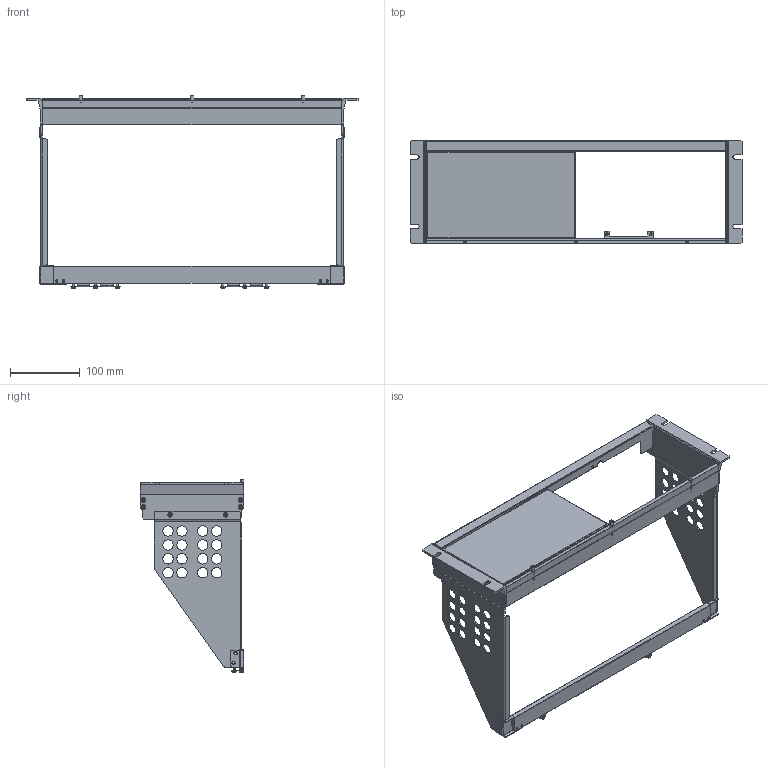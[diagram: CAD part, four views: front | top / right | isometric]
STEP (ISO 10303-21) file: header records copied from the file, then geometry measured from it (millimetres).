
FILE_DESCRIPTION((''),'2;1');
FILE_NAME('GRA-437J_ASM_ASM','2020-10-20T10:34:04',('user'),(''),'CREO PARAMETRIC BY PTC INC, 2019010','CREO PARAMETRIC BY PTC INC, 2019010','');
FILE_SCHEMA(('CONFIG_CONTROL_DESIGN'));
Length unit declared in the file: millimetre
Products named in the file (33): EIA-RACK_ASM_SKEL0002_10_1_1; 62RA-410HP101_3_1_1; 62RA-410HP201_4_1_1; 62RA-410HP3A1_8_1_1; GRA-437_RIGHT-BRACKET_21_1_1; 62RA-410HP5B1-HP_13_1_1; IMS-3X6_1_1_1; 62RA-437HP101_ASM_21_1_ASM_1_ASM; GRA-437_LEFT-BRACKET_14_1_1; 62RA-410HP4A1-HP_13_1_1; IMS-3X6_1_1; 62RA-437HP201_ASM_13_1_ASM_1_ASM; 59CA-04017NS1_1_1_1; 62RA-414HP201_11_1_1; 62RA-414HP201_ASM_3_1_ASM_1_ASM; PMS-W-3X6_1_1_1; FMS-3X8_2_1_1; FMS-3X5_2_1_1; 62RA-410HPBA1_2_1; 62RA-414HP301_8_1; 5320-00403001-SR-3S-1_2_1_1; 5320-00403001-SR-3S-1_2_2_1; 5320-00403001-SR-3S-1_2_ASM_1_ASM; 5320-00403001-SR-3S-2_2_1; 5320-00403001-SR-3S_ASM_2_ASM_1_ASM; GRA-437J_ASM_7_ASM_1_ASM; 62RA-437HP301_23_1_1; BMS-W-S-3X8_1_1; BMS-W-S-3X6_1_1; GPP-XXXX_RACK-HP_ASM_10_1_ASM_1_ASM; GRA-437E_ASM_110_1_ASM_1_ASM; GRA-437J_ASM_ASM_1_ASM; GRA-437J_ASM_ASM
Assembly tree (49 placements, depth 7):
  GRA-437J_ASM_ASM
    GRA-437J_ASM_ASM_1_ASM
      GRA-437E_ASM_110_1_ASM_1_ASM
        EIA-RACK_ASM_SKEL0002_10_1_1
        62RA-410HP101_3_1_1
        62RA-410HP201_4_1_1
        62RA-410HP3A1_8_1_1
        62RA-437HP101_ASM_21_1_ASM_1_ASM
          GRA-437_RIGHT-BRACKET_21_1_1
          62RA-410HP5B1-HP_13_1_1
          IMS-3X6_1_1_1  x2
        62RA-437HP201_ASM_13_1_ASM_1_ASM
          GRA-437_LEFT-BRACKET_14_1_1
          62RA-410HP4A1-HP_13_1_1
          IMS-3X6_1_1  x2
        59CA-04017NS1_1_1_1  x3
        62RA-414HP201_ASM_3_1_ASM_1_ASM
          62RA-414HP201_11_1_1
        PMS-W-3X6_1_1_1
        FMS-3X8_2_1_1  x4
        FMS-3X5_2_1_1  x4
        GRA-437J_ASM_7_ASM_1_ASM
          62RA-410HPBA1_2_1  x2
          62RA-414HP301_8_1
          FMS-3X8_2_1_1  x4
          5320-00403001-SR-3S_ASM_2_ASM_1_ASM
            5320-00403001-SR-3S-1_2_ASM_1_ASM
              5320-00403001-SR-3S-1_2_1_1
              5320-00403001-SR-3S-1_2_2_1
            5320-00403001-SR-3S-2_2_1
        GPP-XXXX_RACK-HP_ASM_10_1_ASM_1_ASM  x2
          62RA-437HP301_23_1_1
          BMS-W-S-3X8_1_1
          BMS-W-S-3X6_1_1
Bounding box: 477.6 x 149 x 278.94 mm (x, y, z)
Volume: 385725.7 mm3; surface area: 335144.5 mm2
Topology: 42 solids, 42 shells, 1742 faces, 4563 edges, 2902 vertices
Faces by surface type: plane 864, cylinder 640, cone 172, sphere 32, bspline 24, torus 10
Entity records: 37267 total; most frequent: CARTESIAN_POINT 7902, DIRECTION 6432, ORIENTED_EDGE 5788, EDGE_CURVE 2894, AXIS2_PLACEMENT_3D 2378, VERTEX_POINT 1834, VECTOR 1676, LINE 1676
